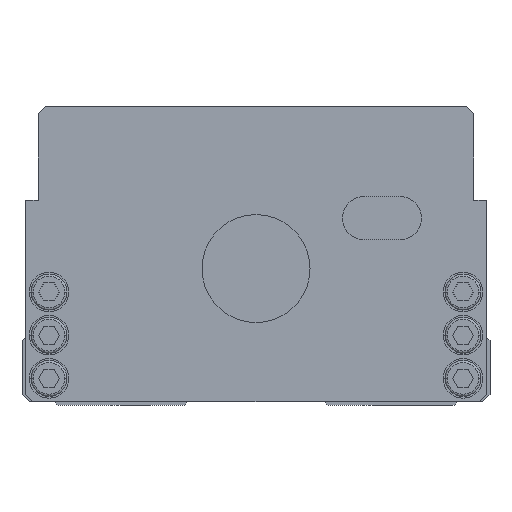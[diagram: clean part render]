
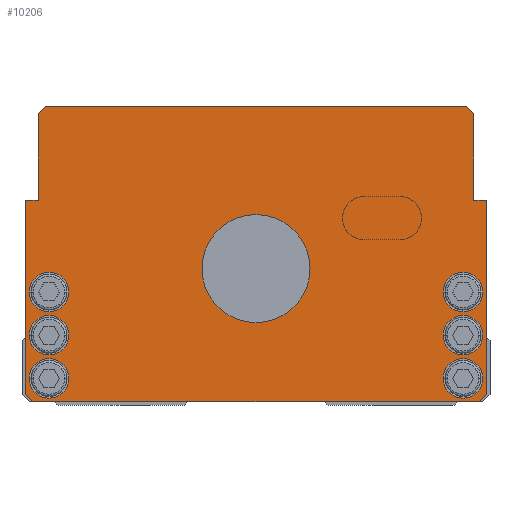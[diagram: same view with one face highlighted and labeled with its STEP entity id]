
A CAD part, front view. The second image highlights one B-rep face of the part: STEP entity #10206.
In plain terms, the highlighted planar face has unit normal (0, -1, 0).
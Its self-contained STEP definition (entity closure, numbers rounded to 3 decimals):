
#4148=VERTEX_POINT('',#12385);
#4152=EDGE_CURVE('',#8352,#9418,#12389,.T.);
#4216=VERTEX_POINT('',#12459);
#4596=VERTEX_POINT('',#12893);
#4654=VERTEX_POINT('',#12957);
#4664=EDGE_CURVE('',#9918,#12154,#12967,.T.);
#4864=VERTEX_POINT('',#13188);
#4960=VERTEX_POINT('',#13292);
#5218=VERTEX_POINT('',#13592);
#5318=EDGE_CURVE('',#6916,#6160,#13698,.T.);
#5364=VERTEX_POINT('',#13748);
#5584=EDGE_CURVE('',#9418,#4216,#14006,.T.);
#5712=VERTEX_POINT('',#14142);
#5802=EDGE_CURVE('',#10330,#10844,#14243,.T.);
#6022=EDGE_CURVE('',#11570,#4960,#14499,.T.);
#6160=VERTEX_POINT('',#14653);
#6462=EDGE_CURVE('',#10844,#10330,#15013,.T.);
#6786=VERTEX_POINT('',#15372);
#6820=EDGE_CURVE('',#5218,#4596,#15412,.T.);
#6850=EDGE_CURVE('',#9188,#5712,#15444,.T.);
#6916=VERTEX_POINT('',#15522);
#6990=EDGE_CURVE('',#8732,#4864,#15603,.T.);
#7680=EDGE_CURVE('',#12154,#9918,#16375,.T.);
#7770=EDGE_CURVE('',#6786,#9632,#16477,.T.);
#7780=EDGE_CURVE('',#11638,#8352,#16488,.T.);
#7828=EDGE_CURVE('',#4960,#11570,#16546,.T.);
#8352=VERTEX_POINT('',#17124);
#8732=VERTEX_POINT('',#17533);
#9012=EDGE_CURVE('',#9602,#4148,#17846,.T.);
#9188=VERTEX_POINT('',#18041);
#9272=EDGE_CURVE('',#5712,#5218,#18135,.T.);
#9418=VERTEX_POINT('',#18297);
#9480=EDGE_CURVE('',#6160,#6916,#18369,.T.);
#9602=VERTEX_POINT('',#18504);
#9632=VERTEX_POINT('',#18539);
#9700=EDGE_CURVE('',#4148,#9602,#18616,.T.);
#9742=EDGE_CURVE('',#5364,#4654,#18660,.T.);
#9816=EDGE_CURVE('',#4596,#9840,#18743,.T.);
#9840=VERTEX_POINT('',#18771);
#9918=VERTEX_POINT('',#18856);
#10006=EDGE_CURVE('',#9632,#11638,#18953,.T.);
#10206=ADVANCED_FACE('',(#19177,#19178,#19179,#19180,#19181,#19182,#19183,#19184),#19185,.T.);
#10330=VERTEX_POINT('',#19320);
#10844=VERTEX_POINT('',#19891);
#11214=EDGE_CURVE('',#4654,#5364,#20303,.T.);
#11264=EDGE_CURVE('',#9840,#12014,#20354,.T.);
#11570=VERTEX_POINT('',#20683);
#11582=EDGE_CURVE('',#4216,#9188,#20697,.T.);
#11638=VERTEX_POINT('',#20761);
#12008=EDGE_CURVE('',#12014,#6786,#21176,.T.);
#12014=VERTEX_POINT('',#21183);
#12154=VERTEX_POINT('',#21335);
#12156=EDGE_CURVE('',#4864,#8732,#21337,.T.);
#12385=CARTESIAN_POINT('',(-52.0,0.0,19.5));
#12389=LINE('',#21585,#21586);
#12459=CARTESIAN_POINT('',(64.0,0.0,3.0));
#12893=CARTESIAN_POINT('',(-64.0,0.0,57.0));
#12957=CARTESIAN_POINT('',(-15.0,0.0,38.0));
#12967=CIRCLE('',#22390,5.5);
#13188=CARTESIAN_POINT('',(63.0,0.0,7.5));
#13292=CARTESIAN_POINT('',(-63.0,0.0,31.5));
#13592=CARTESIAN_POINT('',(-64.0,0.0,3.0));
#13698=CIRCLE('',#23389,5.5);
#13748=CARTESIAN_POINT('',(15.0,0.0,38.0));
#14006=LINE('',#23798,#23799);
#14142=CARTESIAN_POINT('',(-62.0,0.0,1.0));
#14243=CIRCLE('',#24117,5.5);
#14499=CIRCLE('',#24451,5.5);
#14653=CARTESIAN_POINT('',(63.0,0.0,19.5));
#15013=CIRCLE('',#25136,5.5);
#15372=CARTESIAN_POINT('',(-58.5,0.0,83.0));
#15412=LINE('',#25669,#25670);
#15444=LINE('',#25715,#25716);
#15522=CARTESIAN_POINT('',(52.0,0.0,19.5));
#15603=CIRCLE('',#25925,5.5);
#16375=CIRCLE('',#27004,5.5);
#16477=LINE('',#27144,#27145);
#16488=LINE('',#27160,#27161);
#16546=CIRCLE('',#27232,5.5);
#17124=CARTESIAN_POINT('',(60.5,0.0,57.0));
#17533=CARTESIAN_POINT('',(52.0,0.0,7.5));
#17846=CIRCLE('',#29021,5.5);
#18041=CARTESIAN_POINT('',(62.0,0.0,1.0));
#18135=LINE('',#29455,#29456);
#18297=CARTESIAN_POINT('',(64.0,0.0,57.0));
#18369=CIRCLE('',#29773,5.5);
#18504=CARTESIAN_POINT('',(-63.0,0.0,19.5));
#18539=CARTESIAN_POINT('',(58.5,0.0,83.0));
#18616=CIRCLE('',#30105,5.5);
#18660=CIRCLE('',#30169,15.0);
#18743=LINE('',#30278,#30279);
#18771=CARTESIAN_POINT('',(-60.5,0.0,57.0));
#18856=CARTESIAN_POINT('',(-63.0,0.0,7.5));
#18953=LINE('',#30550,#30551);
#19177=FACE_BOUND('',#30847,.T.);
#19178=FACE_BOUND('',#30848,.T.);
#19179=FACE_BOUND('',#30849,.T.);
#19180=FACE_BOUND('',#30850,.T.);
#19181=FACE_BOUND('',#30851,.T.);
#19182=FACE_BOUND('',#30852,.T.);
#19183=FACE_BOUND('',#30853,.T.);
#19184=FACE_OUTER_BOUND('',#30854,.T.);
#19185=PLANE('',#30855);
#19320=CARTESIAN_POINT('',(52.0,0.0,31.5));
#19891=CARTESIAN_POINT('',(63.0,0.0,31.5));
#20303=CIRCLE('',#32372,15.0);
#20354=LINE('',#32443,#32444);
#20683=CARTESIAN_POINT('',(-52.0,0.0,31.5));
#20697=LINE('',#32935,#32936);
#20761=CARTESIAN_POINT('',(60.5,0.0,81.0));
#21176=LINE('',#33563,#33564);
#21183=CARTESIAN_POINT('',(-60.5,0.0,81.0));
#21335=CARTESIAN_POINT('',(-52.0,0.0,7.5));
#21337=CIRCLE('',#33775,5.5);
#21585=CARTESIAN_POINT('',(64.0,0.0,57.0));
#21586=VECTOR('',#34102,1.0);
#22390=AXIS2_PLACEMENT_3D('',#34766,#34767,#34768);
#23389=AXIS2_PLACEMENT_3D('',#35641,#35642,#35643);
#23798=CARTESIAN_POINT('',(64.0,0.0,3.0));
#23799=VECTOR('',#36005,1.0);
#24117=AXIS2_PLACEMENT_3D('',#36260,#36261,#36262);
#24451=AXIS2_PLACEMENT_3D('',#36584,#36585,#36586);
#25136=AXIS2_PLACEMENT_3D('',#37239,#37240,#37241);
#25669=CARTESIAN_POINT('',(-64.0,0.0,57.0));
#25670=VECTOR('',#37735,1.0);
#25715=CARTESIAN_POINT('',(-62.0,0.0,1.0));
#25716=VECTOR('',#37774,1.0);
#25925=AXIS2_PLACEMENT_3D('',#37987,#37988,#37989);
#27004=AXIS2_PLACEMENT_3D('',#38880,#38881,#38882);
#27144=CARTESIAN_POINT('',(58.5,0.0,83.0));
#27145=VECTOR('',#39002,1.0);
#27160=CARTESIAN_POINT('',(60.5,0.0,57.0));
#27161=VECTOR('',#39013,1.0);
#27232=AXIS2_PLACEMENT_3D('',#39116,#39117,#39118);
#29021=AXIS2_PLACEMENT_3D('',#40547,#40548,#40549);
#29455=CARTESIAN_POINT('',(-64.0,0.0,3.0));
#29456=VECTOR('',#40876,1.);
#29773=AXIS2_PLACEMENT_3D('',#41182,#41183,#41184);
#30105=AXIS2_PLACEMENT_3D('',#41467,#41468,#41469);
#30169=AXIS2_PLACEMENT_3D('',#41505,#41506,#41507);
#30278=CARTESIAN_POINT('',(-60.5,0.0,57.0));
#30279=VECTOR('',#41596,1.0);
#30550=CARTESIAN_POINT('',(60.5,0.0,81.0));
#30551=VECTOR('',#41813,1.);
#30847=EDGE_LOOP('',(#42074,#42075));
#30848=EDGE_LOOP('',(#42076,#42077));
#30849=EDGE_LOOP('',(#42078,#42079));
#30850=EDGE_LOOP('',(#42080,#42081));
#30851=EDGE_LOOP('',(#42082,#42083));
#30852=EDGE_LOOP('',(#42084,#42085));
#30853=EDGE_LOOP('',(#42086,#42087));
#30854=EDGE_LOOP('',(#42088,#42089,#42090,#42091,#42092,#42093,#42094,#42095,#42096,#42097,#42098,#42099));
#30855=AXIS2_PLACEMENT_3D('',#42100,#42101,#42102);
#32372=AXIS2_PLACEMENT_3D('',#43419,#43420,#43421);
#32443=CARTESIAN_POINT('',(-60.5,0.0,81.0));
#32444=VECTOR('',#43452,1.0);
#32935=CARTESIAN_POINT('',(62.0,0.0,1.0));
#32936=VECTOR('',#43795,1.);
#33563=CARTESIAN_POINT('',(-58.5,0.0,83.0));
#33564=VECTOR('',#44342,1.);
#33775=AXIS2_PLACEMENT_3D('',#44491,#44492,#44493);
#34102=DIRECTION('',(1.0,0.0,0.0));
#34766=CARTESIAN_POINT('',(-57.5,0.0,7.5));
#34767=DIRECTION('',(-0.0,1.0,0.0));
#34768=DIRECTION('',(1.0,0.0,0.0));
#35641=CARTESIAN_POINT('',(57.5,0.0,19.5));
#35642=DIRECTION('',(-0.0,1.0,0.0));
#35643=DIRECTION('',(1.0,0.0,0.0));
#36005=DIRECTION('',(-0.0,0.0,-1.0));
#36260=CARTESIAN_POINT('',(57.5,0.0,31.5));
#36261=DIRECTION('',(-0.0,1.0,0.0));
#36262=DIRECTION('',(1.0,0.0,0.0));
#36584=CARTESIAN_POINT('',(-57.5,0.0,31.5));
#36585=DIRECTION('',(-0.0,1.0,0.0));
#36586=DIRECTION('',(1.0,0.0,0.0));
#37239=CARTESIAN_POINT('',(57.5,0.0,31.5));
#37240=DIRECTION('',(-0.0,1.0,0.0));
#37241=DIRECTION('',(1.0,0.0,0.0));
#37735=DIRECTION('',(0.0,0.0,1.0));
#37774=DIRECTION('',(-1.0,0.0,-0.0));
#37987=CARTESIAN_POINT('',(57.5,0.0,7.5));
#37988=DIRECTION('',(-0.0,1.0,0.0));
#37989=DIRECTION('',(1.0,0.0,0.0));
#38880=CARTESIAN_POINT('',(-57.5,0.0,7.5));
#38881=DIRECTION('',(-0.0,1.0,0.0));
#38882=DIRECTION('',(1.0,0.0,0.0));
#39002=DIRECTION('',(1.0,0.0,0.0));
#39013=DIRECTION('',(-0.0,0.0,-1.0));
#39116=CARTESIAN_POINT('',(-57.5,0.0,31.5));
#39117=DIRECTION('',(-0.0,1.0,0.0));
#39118=DIRECTION('',(1.0,0.0,0.0));
#40547=CARTESIAN_POINT('',(-57.5,0.0,19.5));
#40548=DIRECTION('',(-0.0,1.0,0.0));
#40549=DIRECTION('',(1.0,0.0,0.0));
#40876=DIRECTION('',(-0.707,0.0,0.707));
#41182=CARTESIAN_POINT('',(57.5,0.0,19.5));
#41183=DIRECTION('',(-0.0,1.0,0.0));
#41184=DIRECTION('',(1.0,0.0,0.0));
#41467=CARTESIAN_POINT('',(-57.5,0.0,19.5));
#41468=DIRECTION('',(-0.0,1.0,0.0));
#41469=DIRECTION('',(1.0,0.0,0.0));
#41505=CARTESIAN_POINT('',(0.0,0.0,38.0));
#41506=DIRECTION('',(-0.0,1.0,0.0));
#41507=DIRECTION('',(1.0,0.0,0.0));
#41596=DIRECTION('',(1.0,0.0,0.0));
#41813=DIRECTION('',(0.707,0.0,-0.707));
#42074=ORIENTED_EDGE('',*,*,#9742,.T.);
#42075=ORIENTED_EDGE('',*,*,#11214,.T.);
#42076=ORIENTED_EDGE('',*,*,#6462,.T.);
#42077=ORIENTED_EDGE('',*,*,#5802,.T.);
#42078=ORIENTED_EDGE('',*,*,#9480,.T.);
#42079=ORIENTED_EDGE('',*,*,#5318,.T.);
#42080=ORIENTED_EDGE('',*,*,#12156,.T.);
#42081=ORIENTED_EDGE('',*,*,#6990,.T.);
#42082=ORIENTED_EDGE('',*,*,#6022,.T.);
#42083=ORIENTED_EDGE('',*,*,#7828,.T.);
#42084=ORIENTED_EDGE('',*,*,#9700,.T.);
#42085=ORIENTED_EDGE('',*,*,#9012,.T.);
#42086=ORIENTED_EDGE('',*,*,#7680,.T.);
#42087=ORIENTED_EDGE('',*,*,#4664,.T.);
#42088=ORIENTED_EDGE('',*,*,#9272,.F.);
#42089=ORIENTED_EDGE('',*,*,#6850,.F.);
#42090=ORIENTED_EDGE('',*,*,#11582,.F.);
#42091=ORIENTED_EDGE('',*,*,#5584,.F.);
#42092=ORIENTED_EDGE('',*,*,#4152,.F.);
#42093=ORIENTED_EDGE('',*,*,#7780,.F.);
#42094=ORIENTED_EDGE('',*,*,#10006,.F.);
#42095=ORIENTED_EDGE('',*,*,#7770,.F.);
#42096=ORIENTED_EDGE('',*,*,#12008,.F.);
#42097=ORIENTED_EDGE('',*,*,#11264,.F.);
#42098=ORIENTED_EDGE('',*,*,#9816,.F.);
#42099=ORIENTED_EDGE('',*,*,#6820,.F.);
#42100=CARTESIAN_POINT('',(0.,0.0,41.562));
#42101=DIRECTION('',(0.0,-1.0,0.0));
#42102=DIRECTION('',(1.0,0.0,0.0));
#43419=CARTESIAN_POINT('',(0.0,0.0,38.0));
#43420=DIRECTION('',(-0.0,1.0,0.0));
#43421=DIRECTION('',(1.0,0.0,0.0));
#43452=DIRECTION('',(0.0,0.0,1.0));
#43795=DIRECTION('',(-0.707,0.0,-0.707));
#44342=DIRECTION('',(0.707,0.0,0.707));
#44491=CARTESIAN_POINT('',(57.5,0.0,7.5));
#44492=DIRECTION('',(-0.0,1.0,0.0));
#44493=DIRECTION('',(1.0,0.0,0.0));
